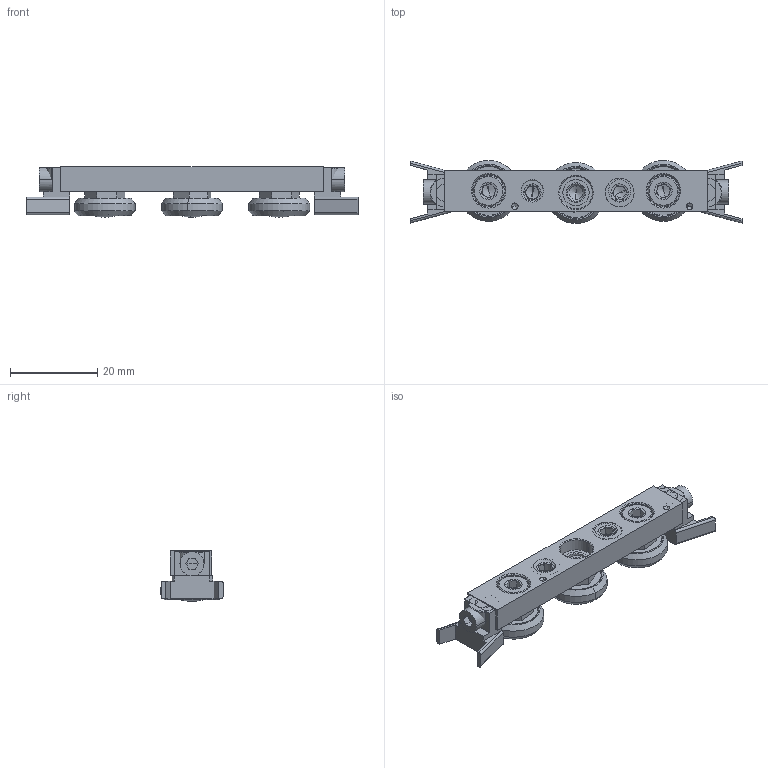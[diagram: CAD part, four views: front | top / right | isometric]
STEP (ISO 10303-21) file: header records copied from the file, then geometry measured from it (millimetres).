
FILE_DESCRIPTION (( 'STEP AP203' ), '1' );
FILE_NAME ('L1918.CSW18-060-2RSU.step', '2019-06-29T22:01:46', ( '' ), ( '' ), 'SwSTEP 2.0', 'SolidWorks 2017', '' );
FILE_SCHEMA (( 'CONFIG_CONTROL_DESIGN' ));
Length unit declared in the file: millimetre
Products named in the file (6): Part5; L1918.CSW18-060-2RSU; Part7; Part4; Part1_L1918.CSW18-060-2RSU; Part8
Assembly tree (15 placements, depth 2):
  L1918.CSW18-060-2RSU
    Part1_L1918.CSW18-060-2RSU
    Part8  x9
    Part4  x2
    Part5
    Part7  x2
Bounding box: 76 x 14.41 x 11.54 mm (x, y, z)
Volume: 6145.5 mm3; surface area: 6500 mm2
Topology: 15 solids, 15 shells, 429 faces, 1000 edges, 609 vertices
Faces by surface type: plane 235, cone 100, cylinder 70, torus 24
Entity records: 6153 total; most frequent: CARTESIAN_POINT 999, DIRECTION 952, ORIENTED_EDGE 828, EDGE_CURVE 414, AXIS2_PLACEMENT_3D 359, VERTEX_POINT 265, LINE 234, VECTOR 234
